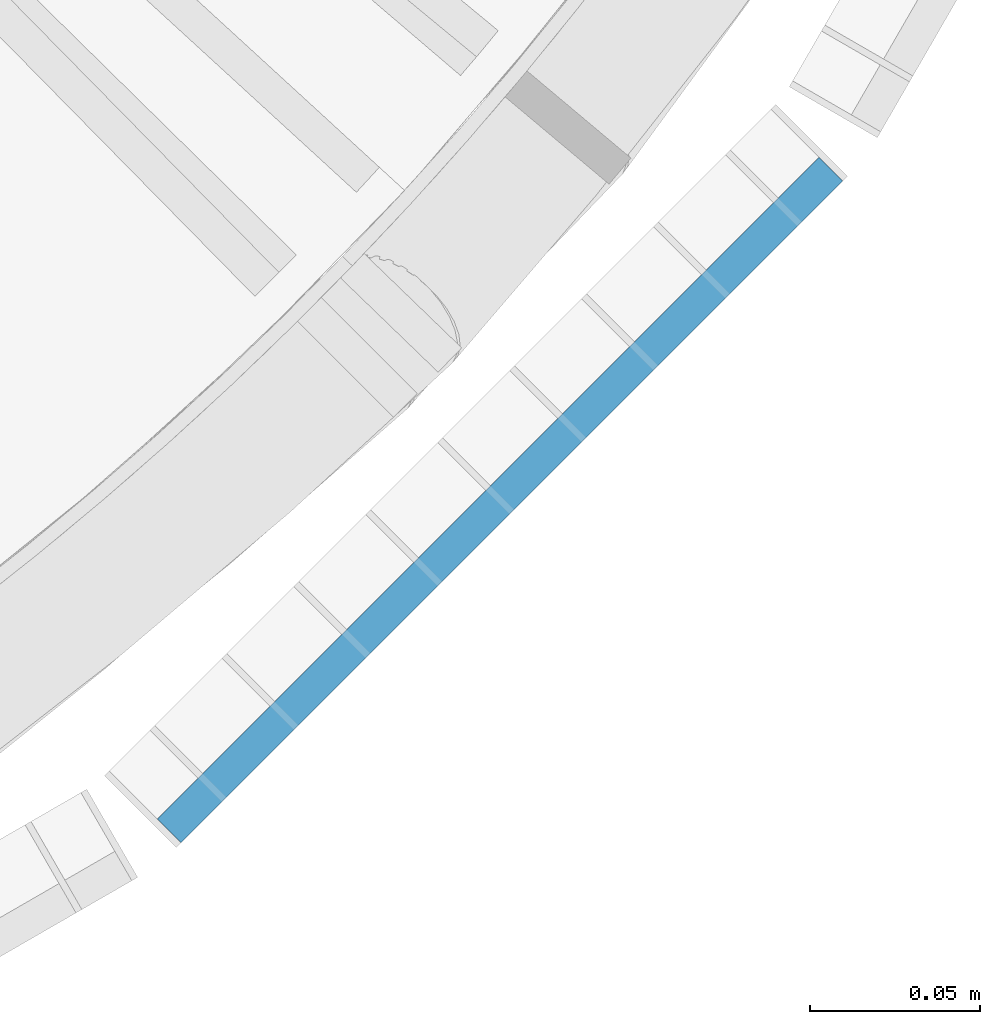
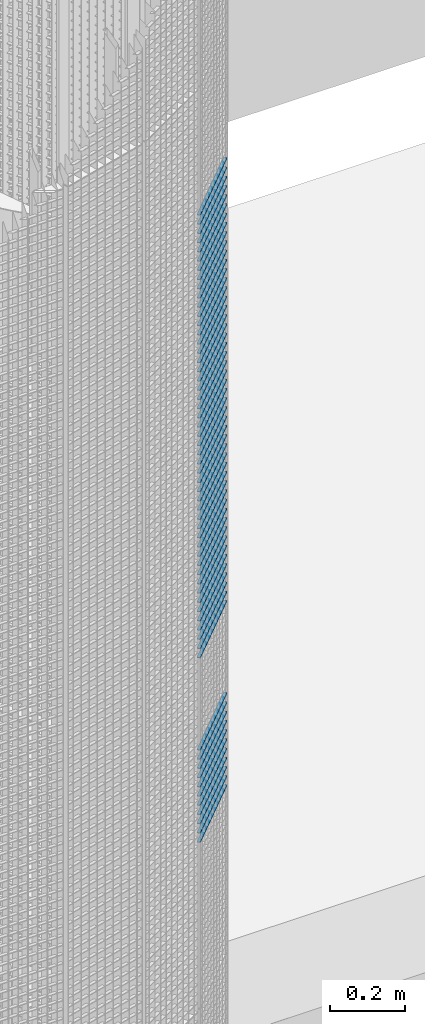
# One storey, part 393 of 1148: 60 beams, 1 element without a shape of its own.
"""IFC2X3 building model written with IfcOpenShell, lengths in millimetres."""

from ifc_helpers import new_model, si_unit, frame, origin_with_axes, origin_2d_with_axis, place, context, subcontext, project, spatial, rectangle, extrude, material, type_object, element, aggregate, save


model = new_model("IFC2X3")

# Units and contexts
model_context = context("Model", 3, precision=1e-05, world=origin_with_axes())
body_context = subcontext(model_context, "Body", "Model", "MODEL_VIEW")
ifc_project = project(units=[si_unit("LENGTHUNIT", "METRE", prefix="MILLI"), si_unit("AREAUNIT", "SQUARE_METRE"), si_unit("VOLUMEUNIT", "CUBIC_METRE"), si_unit("MASSUNIT", "GRAM", prefix="KILO"), si_unit("TIMEUNIT", "SECOND"), si_unit("PLANEANGLEUNIT", "RADIAN"), si_unit("SOLIDANGLEUNIT", "STERADIAN"), si_unit("THERMODYNAMICTEMPERATUREUNIT", "DEGREE_CELSIUS"), si_unit("LUMINOUSINTENSITYUNIT", "LUMEN")], contexts=[model_context])

# Site, building, storey
site_placement = place(None, origin_with_axes())
site = spatial("IfcSite", under=ifc_project, at=site_placement, Name="Undefined", CompositionType="ELEMENT")
building_placement = place(site_placement, origin_with_axes())
building = spatial("IfcBuilding", under=site, at=building_placement, Name="Undefined", CompositionType="ELEMENT")
storey_placement = place(building_placement, origin_with_axes())
storey = spatial("IfcBuildingStorey", under=building, at=storey_placement, Name="Undefined", CompositionType="ELEMENT", Elevation=0.0)

# Assembly, beams
assembly_placement = place(storey_placement, origin_with_axes())
assembly = element("IfcElementAssembly", 1, at=assembly_placement, inside=storey, Name="BORDURE", AssemblyPlace="NOTDEFINED", PredefinedType="NOTDEFINED")
ifc_material = material(Name="STEEL/S235JR")
beam_type = type_object("IfcBeamType", Name="PL2*10", PredefinedType="NOTDEFINED")
beam_1_placement = place(assembly_placement, frame((22484.9271684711, -689.771348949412, 11580.0), z_axis=(0.707106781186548, -0.707106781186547, 0.0), x_axis=(-0.70710678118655, -0.707106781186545, 0.0)))
beam_1 = element("IfcBeam", 2, at=beam_1_placement, type_object=beam_type, material=ifc_material, Name="ENTRETOISE", context=body_context, shape_type="SweptSolid", body=[
    extrude(rectangle(XDim=2.0, YDim=10.0, at=origin_2d_with_axis()), frame((275.999999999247, 9.09494701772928e-13, 1.53210777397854e-14), z_axis=(-1.0, 0.0, 0.0), x_axis=(0.0, -1.0, 0.0)), (0.0, 0.0, 1.0), 276.0),
])
beam_2_placement = place(assembly_placement, frame((22484.9271684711, -689.771348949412, 11550.0), z_axis=(0.707106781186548, -0.707106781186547, 0.0), x_axis=(-0.70710678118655, -0.707106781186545, 0.0)))
beam_2 = element("IfcBeam", 3, at=beam_2_placement, type_object=beam_type, material=ifc_material, Name="ENTRETOISE", context=body_context, shape_type="SweptSolid", body=[
    extrude(rectangle(XDim=2.0, YDim=10.0, at=origin_2d_with_axis()), frame((275.999999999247, 9.09494701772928e-13, 1.53210777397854e-14), z_axis=(-1.0, 0.0, 0.0), x_axis=(0.0, -1.0, 0.0)), (0.0, 0.0, 1.0), 276.0),
])
beam_3_placement = place(assembly_placement, frame((22484.9271684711, -689.771348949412, 11520.0), z_axis=(0.707106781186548, -0.707106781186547, 0.0), x_axis=(-0.70710678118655, -0.707106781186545, 0.0)))
beam_3 = element("IfcBeam", 4, at=beam_3_placement, type_object=beam_type, material=ifc_material, Name="ENTRETOISE", context=body_context, shape_type="SweptSolid", body=[
    extrude(rectangle(XDim=2.0, YDim=10.0, at=origin_2d_with_axis()), frame((275.999999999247, 9.09494701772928e-13, 1.53210777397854e-14), z_axis=(-1.0, 0.0, 0.0), x_axis=(0.0, -1.0, 0.0)), (0.0, 0.0, 1.0), 276.0),
])
beam_4_placement = place(assembly_placement, frame((22484.9271684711, -689.771348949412, 11490.0), z_axis=(0.707106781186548, -0.707106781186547, 0.0), x_axis=(-0.70710678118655, -0.707106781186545, 0.0)))
beam_4 = element("IfcBeam", 5, at=beam_4_placement, type_object=beam_type, material=ifc_material, Name="ENTRETOISE", context=body_context, shape_type="SweptSolid", body=[
    extrude(rectangle(XDim=2.0, YDim=10.0, at=origin_2d_with_axis()), frame((275.999999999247, 9.09494701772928e-13, 1.53210777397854e-14), z_axis=(-1.0, 0.0, 0.0), x_axis=(0.0, -1.0, 0.0)), (0.0, 0.0, 1.0), 276.0),
])
beam_5_placement = place(assembly_placement, frame((22484.9271684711, -689.771348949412, 11460.0), z_axis=(0.707106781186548, -0.707106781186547, 0.0), x_axis=(-0.70710678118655, -0.707106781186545, 0.0)))
beam_5 = element("IfcBeam", 6, at=beam_5_placement, type_object=beam_type, material=ifc_material, Name="ENTRETOISE", context=body_context, shape_type="SweptSolid", body=[
    extrude(rectangle(XDim=2.0, YDim=10.0, at=origin_2d_with_axis()), frame((275.999999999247, 9.09494701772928e-13, 1.53210777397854e-14), z_axis=(-1.0, 0.0, 0.0), x_axis=(0.0, -1.0, 0.0)), (0.0, 0.0, 1.0), 276.0),
])
beam_6_placement = place(assembly_placement, frame((22484.9271684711, -689.771348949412, 11430.0), z_axis=(0.707106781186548, -0.707106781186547, 0.0), x_axis=(-0.70710678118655, -0.707106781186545, 0.0)))
beam_6 = element("IfcBeam", 7, at=beam_6_placement, type_object=beam_type, material=ifc_material, Name="ENTRETOISE", context=body_context, shape_type="SweptSolid", body=[
    extrude(rectangle(XDim=2.0, YDim=10.0, at=origin_2d_with_axis()), frame((275.999999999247, 9.09494701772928e-13, 1.53210777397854e-14), z_axis=(-1.0, 0.0, 0.0), x_axis=(0.0, -1.0, 0.0)), (0.0, 0.0, 1.0), 276.0),
])
beam_7_placement = place(assembly_placement, frame((22484.9271684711, -689.771348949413, 11400.0), z_axis=(0.707106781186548, -0.707106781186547, 0.0), x_axis=(-0.70710678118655, -0.707106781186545, 0.0)))
beam_7 = element("IfcBeam", 8, at=beam_7_placement, type_object=beam_type, material=ifc_material, Name="ENTRETOISE", context=body_context, shape_type="SweptSolid", body=[
    extrude(rectangle(XDim=2.0, YDim=10.0, at=origin_2d_with_axis()), frame((275.999999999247, 9.09494701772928e-13, 1.53210777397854e-14), z_axis=(-1.0, 0.0, 0.0), x_axis=(0.0, -1.0, 0.0)), (0.0, 0.0, 1.0), 276.0),
])
beam_8_placement = place(assembly_placement, frame((22484.9271684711, -689.771348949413, 11370.0), z_axis=(0.707106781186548, -0.707106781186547, 0.0), x_axis=(-0.70710678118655, -0.707106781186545, 0.0)))
beam_8 = element("IfcBeam", 9, at=beam_8_placement, type_object=beam_type, material=ifc_material, Name="ENTRETOISE", context=body_context, shape_type="SweptSolid", body=[
    extrude(rectangle(XDim=2.0, YDim=10.0, at=origin_2d_with_axis()), frame((275.999999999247, 9.09494701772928e-13, 1.53210777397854e-14), z_axis=(-1.0, 0.0, 0.0), x_axis=(0.0, -1.0, 0.0)), (0.0, 0.0, 1.0), 276.0),
])
beam_9_placement = place(assembly_placement, frame((22484.9271684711, -689.771348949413, 11340.0), z_axis=(0.707106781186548, -0.707106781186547, 0.0), x_axis=(-0.70710678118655, -0.707106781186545, 0.0)))
beam_9 = element("IfcBeam", 10, at=beam_9_placement, type_object=beam_type, material=ifc_material, Name="ENTRETOISE", context=body_context, shape_type="SweptSolid", body=[
    extrude(rectangle(XDim=2.0, YDim=10.0, at=origin_2d_with_axis()), frame((275.999999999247, 9.09494701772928e-13, 1.53210777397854e-14), z_axis=(-1.0, 0.0, 0.0), x_axis=(0.0, -1.0, 0.0)), (0.0, 0.0, 1.0), 276.0),
])
beam_10_placement = place(assembly_placement, frame((22484.9271684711, -689.771348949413, 11310.0), z_axis=(0.707106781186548, -0.707106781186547, 0.0), x_axis=(-0.70710678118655, -0.707106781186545, 0.0)))
beam_10 = element("IfcBeam", 11, at=beam_10_placement, type_object=beam_type, material=ifc_material, Name="ENTRETOISE", context=body_context, shape_type="SweptSolid", body=[
    extrude(rectangle(XDim=2.0, YDim=10.0, at=origin_2d_with_axis()), frame((275.999999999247, 9.09494701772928e-13, 1.53210777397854e-14), z_axis=(-1.0, 0.0, 0.0), x_axis=(0.0, -1.0, 0.0)), (0.0, 0.0, 1.0), 276.0),
])
beam_11_placement = place(assembly_placement, frame((22484.9271684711, -689.771348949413, 11280.0), z_axis=(0.707106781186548, -0.707106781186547, 0.0), x_axis=(-0.70710678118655, -0.707106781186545, 0.0)))
beam_11 = element("IfcBeam", 12, at=beam_11_placement, type_object=beam_type, material=ifc_material, Name="ENTRETOISE", context=body_context, shape_type="SweptSolid", body=[
    extrude(rectangle(XDim=2.0, YDim=10.0, at=origin_2d_with_axis()), frame((275.999999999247, 9.09494701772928e-13, 1.53210777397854e-14), z_axis=(-1.0, 0.0, 0.0), x_axis=(0.0, -1.0, 0.0)), (0.0, 0.0, 1.0), 276.0),
])
beam_12_placement = place(assembly_placement, frame((22484.9271684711, -689.771348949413, 11250.0), z_axis=(0.707106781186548, -0.707106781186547, 0.0), x_axis=(-0.70710678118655, -0.707106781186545, 0.0)))
beam_12 = element("IfcBeam", 13, at=beam_12_placement, type_object=beam_type, material=ifc_material, Name="ENTRETOISE", context=body_context, shape_type="SweptSolid", body=[
    extrude(rectangle(XDim=2.0, YDim=10.0, at=origin_2d_with_axis()), frame((275.999999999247, 9.09494701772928e-13, 1.53210777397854e-14), z_axis=(-1.0, 0.0, 0.0), x_axis=(0.0, -1.0, 0.0)), (0.0, 0.0, 1.0), 276.0),
])
beam_13_placement = place(assembly_placement, frame((22484.9271684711, -689.771348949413, 11220.0), z_axis=(0.707106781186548, -0.707106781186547, 0.0), x_axis=(-0.70710678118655, -0.707106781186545, 0.0)))
beam_13 = element("IfcBeam", 14, at=beam_13_placement, type_object=beam_type, material=ifc_material, Name="ENTRETOISE", context=body_context, shape_type="SweptSolid", body=[
    extrude(rectangle(XDim=2.0, YDim=10.0, at=origin_2d_with_axis()), frame((275.999999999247, 9.09494701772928e-13, 1.53210777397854e-14), z_axis=(-1.0, 0.0, 0.0), x_axis=(0.0, -1.0, 0.0)), (0.0, 0.0, 1.0), 276.0),
])
beam_14_placement = place(assembly_placement, frame((22484.9271684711, -689.771348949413, 11190.0), z_axis=(0.707106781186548, -0.707106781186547, 0.0), x_axis=(-0.70710678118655, -0.707106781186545, 0.0)))
beam_14 = element("IfcBeam", 15, at=beam_14_placement, type_object=beam_type, material=ifc_material, Name="ENTRETOISE", context=body_context, shape_type="SweptSolid", body=[
    extrude(rectangle(XDim=2.0, YDim=10.0, at=origin_2d_with_axis()), frame((275.999999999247, 9.09494701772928e-13, 1.53210777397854e-14), z_axis=(-1.0, 0.0, 0.0), x_axis=(0.0, -1.0, 0.0)), (0.0, 0.0, 1.0), 276.0),
])
beam_15_placement = place(assembly_placement, frame((22484.9271684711, -689.771348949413, 11160.0), z_axis=(0.707106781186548, -0.707106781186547, 0.0), x_axis=(-0.70710678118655, -0.707106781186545, 0.0)))
beam_15 = element("IfcBeam", 16, at=beam_15_placement, type_object=beam_type, material=ifc_material, Name="ENTRETOISE", context=body_context, shape_type="SweptSolid", body=[
    extrude(rectangle(XDim=2.0, YDim=10.0, at=origin_2d_with_axis()), frame((275.999999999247, 9.09494701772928e-13, 1.53210777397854e-14), z_axis=(-1.0, 0.0, 0.0), x_axis=(0.0, -1.0, 0.0)), (0.0, 0.0, 1.0), 276.0),
])
beam_16_placement = place(assembly_placement, frame((22484.9271684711, -689.771348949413, 11130.0), z_axis=(0.707106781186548, -0.707106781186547, 0.0), x_axis=(-0.70710678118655, -0.707106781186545, 0.0)))
beam_16 = element("IfcBeam", 17, at=beam_16_placement, type_object=beam_type, material=ifc_material, Name="ENTRETOISE", context=body_context, shape_type="SweptSolid", body=[
    extrude(rectangle(XDim=2.0, YDim=10.0, at=origin_2d_with_axis()), frame((275.999999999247, 9.09494701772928e-13, 1.53210777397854e-14), z_axis=(-1.0, 0.0, 0.0), x_axis=(0.0, -1.0, 0.0)), (0.0, 0.0, 1.0), 276.0),
])
beam_17_placement = place(assembly_placement, frame((22484.9271684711, -689.771348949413, 11100.0), z_axis=(0.707106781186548, -0.707106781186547, 0.0), x_axis=(-0.70710678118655, -0.707106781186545, 0.0)))
beam_17 = element("IfcBeam", 18, at=beam_17_placement, type_object=beam_type, material=ifc_material, Name="ENTRETOISE", context=body_context, shape_type="SweptSolid", body=[
    extrude(rectangle(XDim=2.0, YDim=10.0, at=origin_2d_with_axis()), frame((275.999999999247, 9.09494701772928e-13, 1.53210777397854e-14), z_axis=(-1.0, 0.0, 0.0), x_axis=(0.0, -1.0, 0.0)), (0.0, 0.0, 1.0), 276.0),
])
beam_18_placement = place(assembly_placement, frame((22484.9271684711, -689.771348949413, 11070.0), z_axis=(0.707106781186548, -0.707106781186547, 0.0), x_axis=(-0.70710678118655, -0.707106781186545, 0.0)))
beam_18 = element("IfcBeam", 19, at=beam_18_placement, type_object=beam_type, material=ifc_material, Name="ENTRETOISE", context=body_context, shape_type="SweptSolid", body=[
    extrude(rectangle(XDim=2.0, YDim=10.0, at=origin_2d_with_axis()), frame((275.999999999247, 9.09494701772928e-13, 1.53210777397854e-14), z_axis=(-1.0, 0.0, 0.0), x_axis=(0.0, -1.0, 0.0)), (0.0, 0.0, 1.0), 276.0),
])
beam_19_placement = place(assembly_placement, frame((22484.9271684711, -689.771348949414, 11040.0), z_axis=(0.707106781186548, -0.707106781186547, 0.0), x_axis=(-0.70710678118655, -0.707106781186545, 0.0)))
beam_19 = element("IfcBeam", 20, at=beam_19_placement, type_object=beam_type, material=ifc_material, Name="ENTRETOISE", context=body_context, shape_type="SweptSolid", body=[
    extrude(rectangle(XDim=2.0, YDim=10.0, at=origin_2d_with_axis()), frame((275.999999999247, 9.09494701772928e-13, 1.53210777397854e-14), z_axis=(-1.0, 0.0, 0.0), x_axis=(0.0, -1.0, 0.0)), (0.0, 0.0, 1.0), 276.0),
])
beam_20_placement = place(assembly_placement, frame((22484.9271684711, -689.771348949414, 11010.0), z_axis=(0.707106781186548, -0.707106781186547, 0.0), x_axis=(-0.70710678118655, -0.707106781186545, 0.0)))
beam_20 = element("IfcBeam", 21, at=beam_20_placement, type_object=beam_type, material=ifc_material, Name="ENTRETOISE", context=body_context, shape_type="SweptSolid", body=[
    extrude(rectangle(XDim=2.0, YDim=10.0, at=origin_2d_with_axis()), frame((275.999999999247, 9.09494701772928e-13, 1.53210777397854e-14), z_axis=(-1.0, 0.0, 0.0), x_axis=(0.0, -1.0, 0.0)), (0.0, 0.0, 1.0), 276.0),
])
beam_21_placement = place(assembly_placement, frame((22484.9271684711, -689.771348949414, 10980.0), z_axis=(0.707106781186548, -0.707106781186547, 0.0), x_axis=(-0.70710678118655, -0.707106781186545, 0.0)))
beam_21 = element("IfcBeam", 22, at=beam_21_placement, type_object=beam_type, material=ifc_material, Name="ENTRETOISE", context=body_context, shape_type="SweptSolid", body=[
    extrude(rectangle(XDim=2.0, YDim=10.0, at=origin_2d_with_axis()), frame((275.999999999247, 9.09494701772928e-13, 1.53210777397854e-14), z_axis=(-1.0, 0.0, 0.0), x_axis=(0.0, -1.0, 0.0)), (0.0, 0.0, 1.0), 276.0),
])
beam_22_placement = place(assembly_placement, frame((22484.9271684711, -689.771348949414, 10950.0), z_axis=(0.707106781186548, -0.707106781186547, 0.0), x_axis=(-0.70710678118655, -0.707106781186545, 0.0)))
beam_22 = element("IfcBeam", 23, at=beam_22_placement, type_object=beam_type, material=ifc_material, Name="ENTRETOISE", context=body_context, shape_type="SweptSolid", body=[
    extrude(rectangle(XDim=2.0, YDim=10.0, at=origin_2d_with_axis()), frame((275.999999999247, 9.09494701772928e-13, 1.53210777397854e-14), z_axis=(-1.0, 0.0, 0.0), x_axis=(0.0, -1.0, 0.0)), (0.0, 0.0, 1.0), 276.0),
])
beam_23_placement = place(assembly_placement, frame((22484.9271684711, -689.771348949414, 10920.0), z_axis=(0.707106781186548, -0.707106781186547, 0.0), x_axis=(-0.70710678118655, -0.707106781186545, 0.0)))
beam_23 = element("IfcBeam", 24, at=beam_23_placement, type_object=beam_type, material=ifc_material, Name="ENTRETOISE", context=body_context, shape_type="SweptSolid", body=[
    extrude(rectangle(XDim=2.0, YDim=10.0, at=origin_2d_with_axis()), frame((275.999999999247, 9.09494701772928e-13, 1.53210777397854e-14), z_axis=(-1.0, 0.0, 0.0), x_axis=(0.0, -1.0, 0.0)), (0.0, 0.0, 1.0), 276.0),
])
beam_24_placement = place(assembly_placement, frame((22484.9271684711, -689.771348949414, 10890.0), z_axis=(0.707106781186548, -0.707106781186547, 0.0), x_axis=(-0.70710678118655, -0.707106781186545, 0.0)))
beam_24 = element("IfcBeam", 25, at=beam_24_placement, type_object=beam_type, material=ifc_material, Name="ENTRETOISE", context=body_context, shape_type="SweptSolid", body=[
    extrude(rectangle(XDim=2.0, YDim=10.0, at=origin_2d_with_axis()), frame((275.999999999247, 9.09494701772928e-13, 1.53210777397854e-14), z_axis=(-1.0, 0.0, 0.0), x_axis=(0.0, -1.0, 0.0)), (0.0, 0.0, 1.0), 276.0),
])
beam_25_placement = place(assembly_placement, frame((22484.9271684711, -689.771348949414, 10860.0), z_axis=(0.707106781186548, -0.707106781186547, 0.0), x_axis=(-0.70710678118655, -0.707106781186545, 0.0)))
beam_25 = element("IfcBeam", 26, at=beam_25_placement, type_object=beam_type, material=ifc_material, Name="ENTRETOISE", context=body_context, shape_type="SweptSolid", body=[
    extrude(rectangle(XDim=2.0, YDim=10.0, at=origin_2d_with_axis()), frame((275.999999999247, 9.09494701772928e-13, 1.53210777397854e-14), z_axis=(-1.0, 0.0, 0.0), x_axis=(0.0, -1.0, 0.0)), (0.0, 0.0, 1.0), 276.0),
])
beam_26_placement = place(assembly_placement, frame((22484.9271684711, -689.771348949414, 10830.0), z_axis=(0.707106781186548, -0.707106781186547, 0.0), x_axis=(-0.70710678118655, -0.707106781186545, 0.0)))
beam_26 = element("IfcBeam", 27, at=beam_26_placement, type_object=beam_type, material=ifc_material, Name="ENTRETOISE", context=body_context, shape_type="SweptSolid", body=[
    extrude(rectangle(XDim=2.0, YDim=10.0, at=origin_2d_with_axis()), frame((275.999999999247, 9.09494701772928e-13, 1.53210777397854e-14), z_axis=(-1.0, 0.0, 0.0), x_axis=(0.0, -1.0, 0.0)), (0.0, 0.0, 1.0), 276.0),
])
beam_27_placement = place(assembly_placement, frame((22484.9271684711, -689.771348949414, 10800.0), z_axis=(0.707106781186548, -0.707106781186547, 0.0), x_axis=(-0.70710678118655, -0.707106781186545, 0.0)))
beam_27 = element("IfcBeam", 28, at=beam_27_placement, type_object=beam_type, material=ifc_material, Name="ENTRETOISE", context=body_context, shape_type="SweptSolid", body=[
    extrude(rectangle(XDim=2.0, YDim=10.0, at=origin_2d_with_axis()), frame((275.999999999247, 9.09494701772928e-13, 1.53210777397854e-14), z_axis=(-1.0, 0.0, 0.0), x_axis=(0.0, -1.0, 0.0)), (0.0, 0.0, 1.0), 276.0),
])
beam_28_placement = place(assembly_placement, frame((22484.9271684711, -689.771348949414, 10770.0), z_axis=(0.707106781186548, -0.707106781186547, 0.0), x_axis=(-0.70710678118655, -0.707106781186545, 0.0)))
beam_28 = element("IfcBeam", 29, at=beam_28_placement, type_object=beam_type, material=ifc_material, Name="ENTRETOISE", context=body_context, shape_type="SweptSolid", body=[
    extrude(rectangle(XDim=2.0, YDim=10.0, at=origin_2d_with_axis()), frame((275.999999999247, 9.09494701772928e-13, 1.53210777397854e-14), z_axis=(-1.0, 0.0, 0.0), x_axis=(0.0, -1.0, 0.0)), (0.0, 0.0, 1.0), 276.0),
])
beam_29_placement = place(assembly_placement, frame((22484.9271684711, -689.771348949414, 10740.0), z_axis=(0.707106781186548, -0.707106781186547, 0.0), x_axis=(-0.70710678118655, -0.707106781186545, 0.0)))
beam_29 = element("IfcBeam", 30, at=beam_29_placement, type_object=beam_type, material=ifc_material, Name="ENTRETOISE", context=body_context, shape_type="SweptSolid", body=[
    extrude(rectangle(XDim=2.0, YDim=10.0, at=origin_2d_with_axis()), frame((275.999999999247, 9.09494701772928e-13, 1.53210777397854e-14), z_axis=(-1.0, 0.0, 0.0), x_axis=(0.0, -1.0, 0.0)), (0.0, 0.0, 1.0), 276.0),
])
beam_30_placement = place(assembly_placement, frame((22484.9271684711, -689.771348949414, 10710.0), z_axis=(0.707106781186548, -0.707106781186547, 0.0), x_axis=(-0.70710678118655, -0.707106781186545, 0.0)))
beam_30 = element("IfcBeam", 31, at=beam_30_placement, type_object=beam_type, material=ifc_material, Name="ENTRETOISE", context=body_context, shape_type="SweptSolid", body=[
    extrude(rectangle(XDim=2.0, YDim=10.0, at=origin_2d_with_axis()), frame((275.999999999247, 9.09494701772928e-13, 1.53210777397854e-14), z_axis=(-1.0, 0.0, 0.0), x_axis=(0.0, -1.0, 0.0)), (0.0, 0.0, 1.0), 276.0),
])
beam_31_placement = place(assembly_placement, frame((22484.9271684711, -689.771348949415, 10680.0), z_axis=(0.707106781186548, -0.707106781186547, 0.0), x_axis=(-0.70710678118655, -0.707106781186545, 0.0)))
beam_31 = element("IfcBeam", 32, at=beam_31_placement, type_object=beam_type, material=ifc_material, Name="ENTRETOISE", context=body_context, shape_type="SweptSolid", body=[
    extrude(rectangle(XDim=2.0, YDim=10.0, at=origin_2d_with_axis()), frame((275.999999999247, 9.09494701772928e-13, 1.53210777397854e-14), z_axis=(-1.0, 0.0, 0.0), x_axis=(0.0, -1.0, 0.0)), (0.0, 0.0, 1.0), 276.0),
])
beam_32_placement = place(assembly_placement, frame((22484.9271684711, -689.771348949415, 10650.0), z_axis=(0.707106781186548, -0.707106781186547, 0.0), x_axis=(-0.70710678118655, -0.707106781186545, 0.0)))
beam_32 = element("IfcBeam", 33, at=beam_32_placement, type_object=beam_type, material=ifc_material, Name="ENTRETOISE", context=body_context, shape_type="SweptSolid", body=[
    extrude(rectangle(XDim=2.0, YDim=10.0, at=origin_2d_with_axis()), frame((275.999999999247, 9.09494701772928e-13, 1.53210777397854e-14), z_axis=(-1.0, 0.0, 0.0), x_axis=(0.0, -1.0, 0.0)), (0.0, 0.0, 1.0), 276.0),
])
beam_33_placement = place(assembly_placement, frame((22484.9271684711, -689.771348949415, 10620.0), z_axis=(0.707106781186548, -0.707106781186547, 0.0), x_axis=(-0.70710678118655, -0.707106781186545, 0.0)))
beam_33 = element("IfcBeam", 34, at=beam_33_placement, type_object=beam_type, material=ifc_material, Name="ENTRETOISE", context=body_context, shape_type="SweptSolid", body=[
    extrude(rectangle(XDim=2.0, YDim=10.0, at=origin_2d_with_axis()), frame((275.999999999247, 9.09494701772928e-13, 1.53210777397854e-14), z_axis=(-1.0, 0.0, 0.0), x_axis=(0.0, -1.0, 0.0)), (0.0, 0.0, 1.0), 276.0),
])
beam_34_placement = place(assembly_placement, frame((22484.9271684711, -689.771348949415, 10590.0), z_axis=(0.707106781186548, -0.707106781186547, 0.0), x_axis=(-0.70710678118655, -0.707106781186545, 0.0)))
beam_34 = element("IfcBeam", 35, at=beam_34_placement, type_object=beam_type, material=ifc_material, Name="ENTRETOISE", context=body_context, shape_type="SweptSolid", body=[
    extrude(rectangle(XDim=2.0, YDim=10.0, at=origin_2d_with_axis()), frame((275.999999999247, 9.09494701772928e-13, 1.53210777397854e-14), z_axis=(-1.0, 0.0, 0.0), x_axis=(0.0, -1.0, 0.0)), (0.0, 0.0, 1.0), 276.0),
])
beam_35_placement = place(assembly_placement, frame((22484.9271684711, -689.771348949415, 10560.0), z_axis=(0.707106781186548, -0.707106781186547, 0.0), x_axis=(-0.70710678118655, -0.707106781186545, 0.0)))
beam_35 = element("IfcBeam", 36, at=beam_35_placement, type_object=beam_type, material=ifc_material, Name="ENTRETOISE", context=body_context, shape_type="SweptSolid", body=[
    extrude(rectangle(XDim=2.0, YDim=10.0, at=origin_2d_with_axis()), frame((275.999999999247, 9.09494701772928e-13, 1.53210777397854e-14), z_axis=(-1.0, 0.0, 0.0), x_axis=(0.0, -1.0, 0.0)), (0.0, 0.0, 1.0), 276.0),
])
beam_36_placement = place(assembly_placement, frame((22484.9271684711, -689.771348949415, 10530.0), z_axis=(0.707106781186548, -0.707106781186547, 0.0), x_axis=(-0.70710678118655, -0.707106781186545, 0.0)))
beam_36 = element("IfcBeam", 37, at=beam_36_placement, type_object=beam_type, material=ifc_material, Name="ENTRETOISE", context=body_context, shape_type="SweptSolid", body=[
    extrude(rectangle(XDim=2.0, YDim=10.0, at=origin_2d_with_axis()), frame((275.999999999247, 9.09494701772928e-13, 1.53210777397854e-14), z_axis=(-1.0, 0.0, 0.0), x_axis=(0.0, -1.0, 0.0)), (0.0, 0.0, 1.0), 276.0),
])
beam_37_placement = place(assembly_placement, frame((22484.9271684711, -689.771348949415, 10500.0), z_axis=(0.707106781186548, -0.707106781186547, 0.0), x_axis=(-0.70710678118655, -0.707106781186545, 0.0)))
beam_37 = element("IfcBeam", 38, at=beam_37_placement, type_object=beam_type, material=ifc_material, Name="ENTRETOISE", context=body_context, shape_type="SweptSolid", body=[
    extrude(rectangle(XDim=2.0, YDim=10.0, at=origin_2d_with_axis()), frame((275.999999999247, 9.09494701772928e-13, 1.53210777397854e-14), z_axis=(-1.0, 0.0, 0.0), x_axis=(0.0, -1.0, 0.0)), (0.0, 0.0, 1.0), 276.0),
])
beam_38_placement = place(assembly_placement, frame((22484.9271684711, -689.771348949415, 10470.0), z_axis=(0.707106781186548, -0.707106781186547, 0.0), x_axis=(-0.70710678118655, -0.707106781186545, 0.0)))
beam_38 = element("IfcBeam", 39, at=beam_38_placement, type_object=beam_type, material=ifc_material, Name="ENTRETOISE", context=body_context, shape_type="SweptSolid", body=[
    extrude(rectangle(XDim=2.0, YDim=10.0, at=origin_2d_with_axis()), frame((275.999999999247, 9.09494701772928e-13, 1.53210777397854e-14), z_axis=(-1.0, 0.0, 0.0), x_axis=(0.0, -1.0, 0.0)), (0.0, 0.0, 1.0), 276.0),
])
beam_39_placement = place(assembly_placement, frame((22484.9271684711, -689.771348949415, 10440.0), z_axis=(0.707106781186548, -0.707106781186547, 0.0), x_axis=(-0.70710678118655, -0.707106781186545, 0.0)))
beam_39 = element("IfcBeam", 40, at=beam_39_placement, type_object=beam_type, material=ifc_material, Name="ENTRETOISE", context=body_context, shape_type="SweptSolid", body=[
    extrude(rectangle(XDim=2.0, YDim=10.0, at=origin_2d_with_axis()), frame((275.999999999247, 9.09494701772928e-13, 1.53210777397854e-14), z_axis=(-1.0, 0.0, 0.0), x_axis=(0.0, -1.0, 0.0)), (0.0, 0.0, 1.0), 276.0),
])
beam_40_placement = place(assembly_placement, frame((22484.9271684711, -689.771348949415, 10410.0), z_axis=(0.707106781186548, -0.707106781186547, 0.0), x_axis=(-0.70710678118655, -0.707106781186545, 0.0)))
beam_40 = element("IfcBeam", 41, at=beam_40_placement, type_object=beam_type, material=ifc_material, Name="ENTRETOISE", context=body_context, shape_type="SweptSolid", body=[
    extrude(rectangle(XDim=2.0, YDim=10.0, at=origin_2d_with_axis()), frame((275.999999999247, 9.09494701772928e-13, 1.53210777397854e-14), z_axis=(-1.0, 0.0, 0.0), x_axis=(0.0, -1.0, 0.0)), (0.0, 0.0, 1.0), 276.0),
])
beam_41_placement = place(assembly_placement, frame((22484.9271684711, -689.771348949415, 10380.0), z_axis=(0.707106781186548, -0.707106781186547, 0.0), x_axis=(-0.70710678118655, -0.707106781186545, 0.0)))
beam_41 = element("IfcBeam", 42, at=beam_41_placement, type_object=beam_type, material=ifc_material, Name="ENTRETOISE", context=body_context, shape_type="SweptSolid", body=[
    extrude(rectangle(XDim=2.0, YDim=10.0, at=origin_2d_with_axis()), frame((275.999999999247, 9.09494701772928e-13, 1.53210777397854e-14), z_axis=(-1.0, 0.0, 0.0), x_axis=(0.0, -1.0, 0.0)), (0.0, 0.0, 1.0), 276.0),
])
beam_42_placement = place(assembly_placement, frame((22484.9271684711, -689.771348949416, 10350.0), z_axis=(0.707106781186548, -0.707106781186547, 0.0), x_axis=(-0.70710678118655, -0.707106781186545, 0.0)))
beam_42 = element("IfcBeam", 43, at=beam_42_placement, type_object=beam_type, material=ifc_material, Name="ENTRETOISE", context=body_context, shape_type="SweptSolid", body=[
    extrude(rectangle(XDim=2.0, YDim=10.0, at=origin_2d_with_axis()), frame((275.999999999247, 9.09494701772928e-13, 1.53210777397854e-14), z_axis=(-1.0, 0.0, 0.0), x_axis=(0.0, -1.0, 0.0)), (0.0, 0.0, 1.0), 276.0),
])
beam_43_placement = place(assembly_placement, frame((22484.9271684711, -689.771348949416, 10320.0), z_axis=(0.707106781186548, -0.707106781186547, 0.0), x_axis=(-0.70710678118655, -0.707106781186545, 0.0)))
beam_43 = element("IfcBeam", 44, at=beam_43_placement, type_object=beam_type, material=ifc_material, Name="ENTRETOISE", context=body_context, shape_type="SweptSolid", body=[
    extrude(rectangle(XDim=2.0, YDim=10.0, at=origin_2d_with_axis()), frame((275.999999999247, 9.09494701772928e-13, 1.53210777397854e-14), z_axis=(-1.0, 0.0, 0.0), x_axis=(0.0, -1.0, 0.0)), (0.0, 0.0, 1.0), 276.0),
])
beam_44_placement = place(assembly_placement, frame((22484.9271684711, -689.771348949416, 10290.0), z_axis=(0.707106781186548, -0.707106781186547, 0.0), x_axis=(-0.70710678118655, -0.707106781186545, 0.0)))
beam_44 = element("IfcBeam", 45, at=beam_44_placement, type_object=beam_type, material=ifc_material, Name="ENTRETOISE", context=body_context, shape_type="SweptSolid", body=[
    extrude(rectangle(XDim=2.0, YDim=10.0, at=origin_2d_with_axis()), frame((275.999999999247, 9.09494701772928e-13, 1.53210777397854e-14), z_axis=(-1.0, 0.0, 0.0), x_axis=(0.0, -1.0, 0.0)), (0.0, 0.0, 1.0), 276.0),
])
beam_45_placement = place(assembly_placement, frame((22484.9271684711, -689.771348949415, 10260.0), z_axis=(0.707106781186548, -0.707106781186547, 0.0), x_axis=(-0.70710678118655, -0.707106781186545, 0.0)))
beam_45 = element("IfcBeam", 46, at=beam_45_placement, type_object=beam_type, material=ifc_material, Name="ENTRETOISE", context=body_context, shape_type="SweptSolid", body=[
    extrude(rectangle(XDim=2.0, YDim=10.0, at=origin_2d_with_axis()), frame((275.999999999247, 9.09494701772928e-13, 1.53210777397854e-14), z_axis=(-1.0, 0.0, 0.0), x_axis=(0.0, -1.0, 0.0)), (0.0, 0.0, 1.0), 276.0),
])
beam_46_placement = place(assembly_placement, frame((22484.9271684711, -689.771348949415, 10230.0), z_axis=(0.707106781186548, -0.707106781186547, 0.0), x_axis=(-0.70710678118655, -0.707106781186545, 0.0)))
beam_46 = element("IfcBeam", 47, at=beam_46_placement, type_object=beam_type, material=ifc_material, Name="ENTRETOISE", context=body_context, shape_type="SweptSolid", body=[
    extrude(rectangle(XDim=2.0, YDim=10.0, at=origin_2d_with_axis()), frame((275.999999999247, 9.09494701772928e-13, 1.53210777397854e-14), z_axis=(-1.0, 0.0, 0.0), x_axis=(0.0, -1.0, 0.0)), (0.0, 0.0, 1.0), 276.0),
])
beam_47_placement = place(assembly_placement, frame((22484.9271684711, -689.771348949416, 10200.0), z_axis=(0.707106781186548, -0.707106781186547, 0.0), x_axis=(-0.70710678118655, -0.707106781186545, 0.0)))
beam_47 = element("IfcBeam", 48, at=beam_47_placement, type_object=beam_type, material=ifc_material, Name="ENTRETOISE", context=body_context, shape_type="SweptSolid", body=[
    extrude(rectangle(XDim=2.0, YDim=10.0, at=origin_2d_with_axis()), frame((275.999999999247, 9.09494701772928e-13, 1.53210777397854e-14), z_axis=(-1.0, 0.0, 0.0), x_axis=(0.0, -1.0, 0.0)), (0.0, 0.0, 1.0), 276.0),
])
beam_48_placement = place(assembly_placement, frame((22484.9271684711, -689.771348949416, 10170.0), z_axis=(0.707106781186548, -0.707106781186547, 0.0), x_axis=(-0.70710678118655, -0.707106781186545, 0.0)))
beam_48 = element("IfcBeam", 49, at=beam_48_placement, type_object=beam_type, material=ifc_material, Name="ENTRETOISE", context=body_context, shape_type="SweptSolid", body=[
    extrude(rectangle(XDim=2.0, YDim=10.0, at=origin_2d_with_axis()), frame((275.999999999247, 9.09494701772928e-13, 1.53210777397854e-14), z_axis=(-1.0, 0.0, 0.0), x_axis=(0.0, -1.0, 0.0)), (0.0, 0.0, 1.0), 276.0),
])
beam_49_placement = place(assembly_placement, frame((22484.9271684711, -689.771348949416, 10140.0), z_axis=(0.707106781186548, -0.707106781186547, 0.0), x_axis=(-0.70710678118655, -0.707106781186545, 0.0)))
beam_49 = element("IfcBeam", 50, at=beam_49_placement, type_object=beam_type, material=ifc_material, Name="ENTRETOISE", context=body_context, shape_type="SweptSolid", body=[
    extrude(rectangle(XDim=2.0, YDim=10.0, at=origin_2d_with_axis()), frame((275.999999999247, 9.09494701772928e-13, 1.53210777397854e-14), z_axis=(-1.0, 0.0, 0.0), x_axis=(0.0, -1.0, 0.0)), (0.0, 0.0, 1.0), 276.0),
])
beam_50_placement = place(assembly_placement, frame((22484.9271684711, -689.771348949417, 9720.0), z_axis=(0.707106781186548, -0.707106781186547, 0.0), x_axis=(-0.70710678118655, -0.707106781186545, 0.0)))
beam_50 = element("IfcBeam", 51, at=beam_50_placement, type_object=beam_type, material=ifc_material, Name="ENTRETOISE", context=body_context, shape_type="SweptSolid", body=[
    extrude(rectangle(XDim=2.0, YDim=10.0, at=origin_2d_with_axis()), frame((275.999999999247, 9.09494701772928e-13, 1.53210777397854e-14), z_axis=(-1.0, 0.0, 0.0), x_axis=(0.0, -1.0, 0.0)), (0.0, 0.0, 1.0), 276.0),
])
beam_51_placement = place(assembly_placement, frame((22484.9271684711, -689.771348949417, 9690.0), z_axis=(0.707106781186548, -0.707106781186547, 0.0), x_axis=(-0.70710678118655, -0.707106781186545, 0.0)))
beam_51 = element("IfcBeam", 52, at=beam_51_placement, type_object=beam_type, material=ifc_material, Name="ENTRETOISE", context=body_context, shape_type="SweptSolid", body=[
    extrude(rectangle(XDim=2.0, YDim=10.0, at=origin_2d_with_axis()), frame((275.999999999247, 9.09494701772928e-13, 1.53210777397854e-14), z_axis=(-1.0, 0.0, 0.0), x_axis=(0.0, -1.0, 0.0)), (0.0, 0.0, 1.0), 276.0),
])
beam_52_placement = place(assembly_placement, frame((22484.9271684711, -689.771348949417, 9750.0), z_axis=(0.707106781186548, -0.707106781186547, 0.0), x_axis=(-0.70710678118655, -0.707106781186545, 0.0)))
beam_52 = element("IfcBeam", 53, at=beam_52_placement, type_object=beam_type, material=ifc_material, Name="ENTRETOISE", context=body_context, shape_type="SweptSolid", body=[
    extrude(rectangle(XDim=2.0, YDim=10.0, at=origin_2d_with_axis()), frame((275.999999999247, 9.09494701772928e-13, 1.53210777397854e-14), z_axis=(-1.0, 0.0, 0.0), x_axis=(0.0, -1.0, 0.0)), (0.0, 0.0, 1.0), 276.0),
])
beam_53_placement = place(assembly_placement, frame((22484.9271684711, -689.771348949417, 9660.0), z_axis=(0.707106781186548, -0.707106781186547, 0.0), x_axis=(-0.70710678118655, -0.707106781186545, 0.0)))
beam_53 = element("IfcBeam", 54, at=beam_53_placement, type_object=beam_type, material=ifc_material, Name="ENTRETOISE", context=body_context, shape_type="SweptSolid", body=[
    extrude(rectangle(XDim=2.0, YDim=10.0, at=origin_2d_with_axis()), frame((275.999999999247, 9.09494701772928e-13, 1.53210777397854e-14), z_axis=(-1.0, 0.0, 0.0), x_axis=(0.0, -1.0, 0.0)), (0.0, 0.0, 1.0), 276.0),
])
beam_54_placement = place(assembly_placement, frame((22484.9271684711, -689.771348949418, 9630.0), z_axis=(0.707106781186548, -0.707106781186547, 0.0), x_axis=(-0.70710678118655, -0.707106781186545, 0.0)))
beam_54 = element("IfcBeam", 55, at=beam_54_placement, type_object=beam_type, material=ifc_material, Name="ENTRETOISE", context=body_context, shape_type="SweptSolid", body=[
    extrude(rectangle(XDim=2.0, YDim=10.0, at=origin_2d_with_axis()), frame((275.999999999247, 9.09494701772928e-13, 1.53210777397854e-14), z_axis=(-1.0, 0.0, 0.0), x_axis=(0.0, -1.0, 0.0)), (0.0, 0.0, 1.0), 276.0),
])
beam_55_placement = place(assembly_placement, frame((22484.9271684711, -689.771348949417, 9780.0), z_axis=(0.707106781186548, -0.707106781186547, 0.0), x_axis=(-0.70710678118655, -0.707106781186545, 0.0)))
beam_55 = element("IfcBeam", 56, at=beam_55_placement, type_object=beam_type, material=ifc_material, Name="ENTRETOISE", context=body_context, shape_type="SweptSolid", body=[
    extrude(rectangle(XDim=2.0, YDim=10.0, at=origin_2d_with_axis()), frame((275.999999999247, 9.09494701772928e-13, 1.53210777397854e-14), z_axis=(-1.0, 0.0, 0.0), x_axis=(0.0, -1.0, 0.0)), (0.0, 0.0, 1.0), 276.0),
])
beam_56_placement = place(assembly_placement, frame((22484.9271684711, -689.771348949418, 9600.0), z_axis=(0.707106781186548, -0.707106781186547, 0.0), x_axis=(-0.70710678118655, -0.707106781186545, 0.0)))
beam_56 = element("IfcBeam", 57, at=beam_56_placement, type_object=beam_type, material=ifc_material, Name="ENTRETOISE", context=body_context, shape_type="SweptSolid", body=[
    extrude(rectangle(XDim=2.0, YDim=10.0, at=origin_2d_with_axis()), frame((275.999999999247, 9.09494701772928e-13, 1.53210777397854e-14), z_axis=(-1.0, 0.0, 0.0), x_axis=(0.0, -1.0, 0.0)), (0.0, 0.0, 1.0), 276.0),
])
beam_57_placement = place(assembly_placement, frame((22484.9271684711, -689.771348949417, 9810.0), z_axis=(0.707106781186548, -0.707106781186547, 0.0), x_axis=(-0.70710678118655, -0.707106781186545, 0.0)))
beam_57 = element("IfcBeam", 58, at=beam_57_placement, type_object=beam_type, material=ifc_material, Name="ENTRETOISE", context=body_context, shape_type="SweptSolid", body=[
    extrude(rectangle(XDim=2.0, YDim=10.0, at=origin_2d_with_axis()), frame((275.999999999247, 9.09494701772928e-13, 1.53210777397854e-14), z_axis=(-1.0, 0.0, 0.0), x_axis=(0.0, -1.0, 0.0)), (0.0, 0.0, 1.0), 276.0),
])
beam_58_placement = place(assembly_placement, frame((22484.9271684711, -689.771348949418, 9570.0), z_axis=(0.707106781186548, -0.707106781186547, 0.0), x_axis=(-0.70710678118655, -0.707106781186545, 0.0)))
beam_58 = element("IfcBeam", 59, at=beam_58_placement, type_object=beam_type, material=ifc_material, Name="ENTRETOISE", context=body_context, shape_type="SweptSolid", body=[
    extrude(rectangle(XDim=2.0, YDim=10.0, at=origin_2d_with_axis()), frame((275.999999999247, 9.09494701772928e-13, 1.53210777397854e-14), z_axis=(-1.0, 0.0, 0.0), x_axis=(0.0, -1.0, 0.0)), (0.0, 0.0, 1.0), 276.0),
])
beam_59_placement = place(assembly_placement, frame((22484.9271684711, -689.771348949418, 9540.0), z_axis=(0.707106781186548, -0.707106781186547, 0.0), x_axis=(-0.70710678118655, -0.707106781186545, 0.0)))
beam_59 = element("IfcBeam", 60, at=beam_59_placement, type_object=beam_type, material=ifc_material, Name="ENTRETOISE", context=body_context, shape_type="SweptSolid", body=[
    extrude(rectangle(XDim=2.0, YDim=10.0, at=origin_2d_with_axis()), frame((275.999999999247, 9.09494701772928e-13, 1.53210777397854e-14), z_axis=(-1.0, 0.0, 0.0), x_axis=(0.0, -1.0, 0.0)), (0.0, 0.0, 1.0), 276.0),
])
beam_60_placement = place(assembly_placement, frame((22484.9271684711, -689.771348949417, 9840.0), z_axis=(0.707106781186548, -0.707106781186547, 0.0), x_axis=(-0.70710678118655, -0.707106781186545, 0.0)))
beam_60 = element("IfcBeam", 61, at=beam_60_placement, type_object=beam_type, material=ifc_material, Name="ENTRETOISE", context=body_context, shape_type="SweptSolid", body=[
    extrude(rectangle(XDim=2.0, YDim=10.0, at=origin_2d_with_axis()), frame((275.999999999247, 9.09494701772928e-13, 1.53210777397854e-14), z_axis=(-1.0, 0.0, 0.0), x_axis=(0.0, -1.0, 0.0)), (0.0, 0.0, 1.0), 276.0),
])
aggregate(assembly, [beam_1, beam_2, beam_3, beam_4, beam_5, beam_6, beam_7, beam_8, beam_9, beam_10, beam_11, beam_12, beam_13, beam_14, beam_15, beam_16, beam_17, beam_18, beam_19, beam_20, beam_21, beam_22, beam_23, beam_24, beam_25, beam_26, beam_27, beam_28, beam_29, beam_30, beam_31, beam_32, beam_33, beam_34, beam_35, beam_36, beam_37, beam_38, beam_39, beam_40, beam_41, beam_42, beam_43, beam_44, beam_45, beam_46, beam_47, beam_48, beam_49, beam_50, beam_51, beam_52, beam_53, beam_54, beam_55, beam_56, beam_57, beam_58, beam_59, beam_60])

save(model, "model.ifc")
